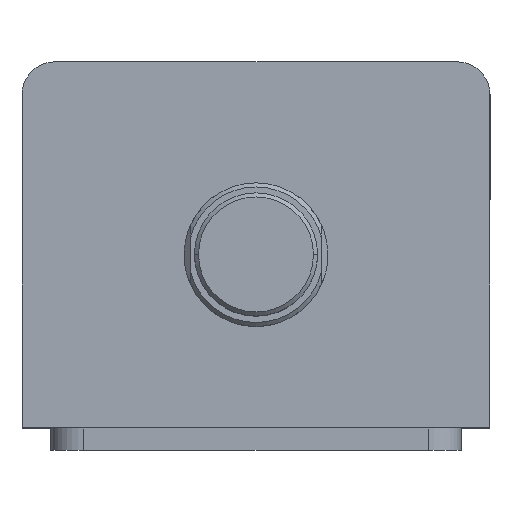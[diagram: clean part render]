
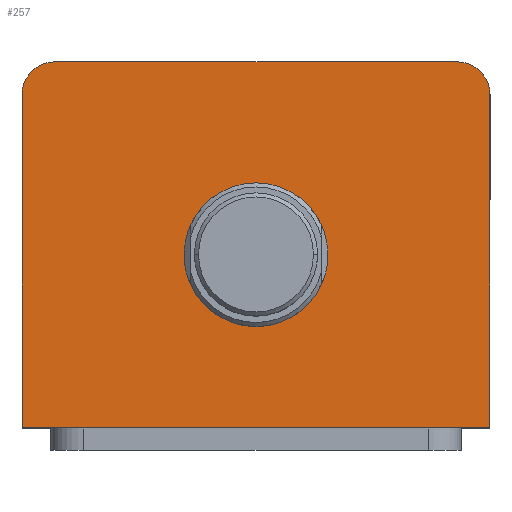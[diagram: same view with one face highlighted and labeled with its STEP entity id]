
A CAD part, top view. The second image highlights one B-rep face of the part: STEP entity #257.
In plain terms, the highlighted planar face has unit normal (0, 0, 1).
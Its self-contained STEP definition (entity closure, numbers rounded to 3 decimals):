
#7 = VECTOR ( 'NONE', #2060, 1000. ) ;
#10 = LINE ( 'NONE', #2061, #7 ) ;
#121 = EDGE_CURVE ( 'NONE', #1797, #1800, #147, .T. ) ;
#144 = VECTOR ( 'NONE', #3131, 1000. ) ;
#147 = LINE ( 'NONE', #3133, #144 ) ;
#191 = ORIENTED_EDGE ( 'NONE', *, *, #2036, .T. ) ;
#192 = ORIENTED_EDGE ( 'NONE', *, *, #1999, .T. ) ;
#193 = ORIENTED_EDGE ( 'NONE', *, *, #2449, .T. ) ;
#194 = ORIENTED_EDGE ( 'NONE', *, *, #121, .T. ) ;
#195 = ORIENTED_EDGE ( 'NONE', *, *, #2027, .F. ) ;
#196 = ORIENTED_EDGE ( 'NONE', *, *, #2030, .F. ) ;
#198 = FACE_OUTER_BOUND ( 'NONE', #1413, .T. ) ;
#203 = FACE_BOUND ( 'NONE', #1414, .T. ) ;
#257 = ADVANCED_FACE ( 'NONE', ( #203, #198 ), #2246, .T. ) ;
#344 = DIRECTION ( 'NONE',  ( 0., -1., 0. ) ) ;
#345 = CARTESIAN_POINT ( 'NONE',  ( -57., 44.5, 152. ) ) ;
#377 = CARTESIAN_POINT ( 'NONE',  ( -57., 36.5, 152. ) ) ;
#389 = CARTESIAN_POINT ( 'NONE',  ( -49., 44.5, 152. ) ) ;
#393 = CARTESIAN_POINT ( 'NONE',  ( 49., 44.5, 152. ) ) ;
#407 = CARTESIAN_POINT ( 'NONE',  ( 57., 36.5, 152. ) ) ;
#429 = CARTESIAN_POINT ( 'NONE',  ( 57., -44.5, 152. ) ) ;
#432 = CARTESIAN_POINT ( 'NONE',  ( 17.5, -2.5, 152. ) ) ;
#433 = CARTESIAN_POINT ( 'NONE',  ( -17.5, -2.5, 152. ) ) ;
#435 = CARTESIAN_POINT ( 'NONE',  ( -57., -44.5, 152. ) ) ;
#602 = EDGE_CURVE ( 'NONE', #1768, #1785, #10, .T. ) ;
#856 = VECTOR ( 'NONE', #344, 1000. ) ;
#862 = LINE ( 'NONE', #345, #856 ) ;
#906 = CIRCLE ( 'NONE', #2684, 17.5 ) ;
#911 = CIRCLE ( 'NONE', #2686, 17.5 ) ;
#919 = LINE ( 'NONE', #3298, #922 ) ;
#922 = VECTOR ( 'NONE', #3297, 1000. ) ;
#957 = CIRCLE ( 'NONE', #2699, 8. ) ;
#970 = CIRCLE ( 'NONE', #2706, 8. ) ;
#1376 = ORIENTED_EDGE ( 'NONE', *, *, #2440, .T. ) ;
#1377 = ORIENTED_EDGE ( 'NONE', *, *, #602, .T. ) ;
#1413 = EDGE_LOOP ( 'NONE', ( #194, #193, #192, #191, #1377, #1376 ) ) ;
#1414 = EDGE_LOOP ( 'NONE', ( #196, #195 ) ) ;
#1763 = VERTEX_POINT ( 'NONE', #435 ) ;
#1764 = VERTEX_POINT ( 'NONE', #433 ) ;
#1765 = VERTEX_POINT ( 'NONE', #432 ) ;
#1768 = VERTEX_POINT ( 'NONE', #429 ) ;
#1785 = VERTEX_POINT ( 'NONE', #407 ) ;
#1797 = VERTEX_POINT ( 'NONE', #393 ) ;
#1800 = VERTEX_POINT ( 'NONE', #389 ) ;
#1809 = VERTEX_POINT ( 'NONE', #377 ) ;
#1999 = EDGE_CURVE ( 'NONE', #1809, #1763, #862, .T. ) ;
#2027 = EDGE_CURVE ( 'NONE', #1764, #1765, #906, .T. ) ;
#2030 = EDGE_CURVE ( 'NONE', #1765, #1764, #911, .T. ) ;
#2036 = EDGE_CURVE ( 'NONE', #1763, #1768, #919, .T. ) ;
#2060 = DIRECTION ( 'NONE',  ( 0., 1., 0. ) ) ;
#2061 = CARTESIAN_POINT ( 'NONE',  ( 57., 44.5, 152. ) ) ;
#2237 = DIRECTION ( 'NONE',  ( 1., 0., 0. ) ) ;
#2239 = DIRECTION ( 'NONE',  ( 0., 0., 1. ) ) ;
#2246 = PLANE ( 'NONE',  #2634 ) ;
#2247 = CARTESIAN_POINT ( 'NONE',  ( 0., 0., 152. ) ) ;
#2440 = EDGE_CURVE ( 'NONE', #1785, #1797, #957, .T. ) ;
#2449 = EDGE_CURVE ( 'NONE', #1800, #1809, #970, .T. ) ;
#2634 = AXIS2_PLACEMENT_3D ( 'NONE', #2247, #2239, #2237 ) ;
#2684 = AXIS2_PLACEMENT_3D ( 'NONE', #3373, #3371, #3370 ) ;
#2686 = AXIS2_PLACEMENT_3D ( 'NONE', #3344, #3340, #3339 ) ;
#2699 = AXIS2_PLACEMENT_3D ( 'NONE', #3390, #3389, #3388 ) ;
#2706 = AXIS2_PLACEMENT_3D ( 'NONE', #3356, #3355, #3353 ) ;
#3131 = DIRECTION ( 'NONE',  ( -1., 0., 0. ) ) ;
#3133 = CARTESIAN_POINT ( 'NONE',  ( -57., 44.5, 152. ) ) ;
#3297 = DIRECTION ( 'NONE',  ( 1., 0., 0. ) ) ;
#3298 = CARTESIAN_POINT ( 'NONE',  ( -57., -44.5, 152. ) ) ;
#3339 = DIRECTION ( 'NONE',  ( 1., 0., 0. ) ) ;
#3340 = DIRECTION ( 'NONE',  ( 0., 0., 1. ) ) ;
#3344 = CARTESIAN_POINT ( 'NONE',  ( 0., -2.5, 152. ) ) ;
#3353 = DIRECTION ( 'NONE',  ( 1., 0., 0. ) ) ;
#3355 = DIRECTION ( 'NONE',  ( 0., 0., 1. ) ) ;
#3356 = CARTESIAN_POINT ( 'NONE',  ( -49., 36.5, 152. ) ) ;
#3370 = DIRECTION ( 'NONE',  ( 1., 0., 0. ) ) ;
#3371 = DIRECTION ( 'NONE',  ( 0., 0., 1. ) ) ;
#3373 = CARTESIAN_POINT ( 'NONE',  ( 0., -2.5, 152. ) ) ;
#3388 = DIRECTION ( 'NONE',  ( 1., 0., 0. ) ) ;
#3389 = DIRECTION ( 'NONE',  ( 0., 0., 1. ) ) ;
#3390 = CARTESIAN_POINT ( 'NONE',  ( 49., 36.5, 152. ) ) ;
